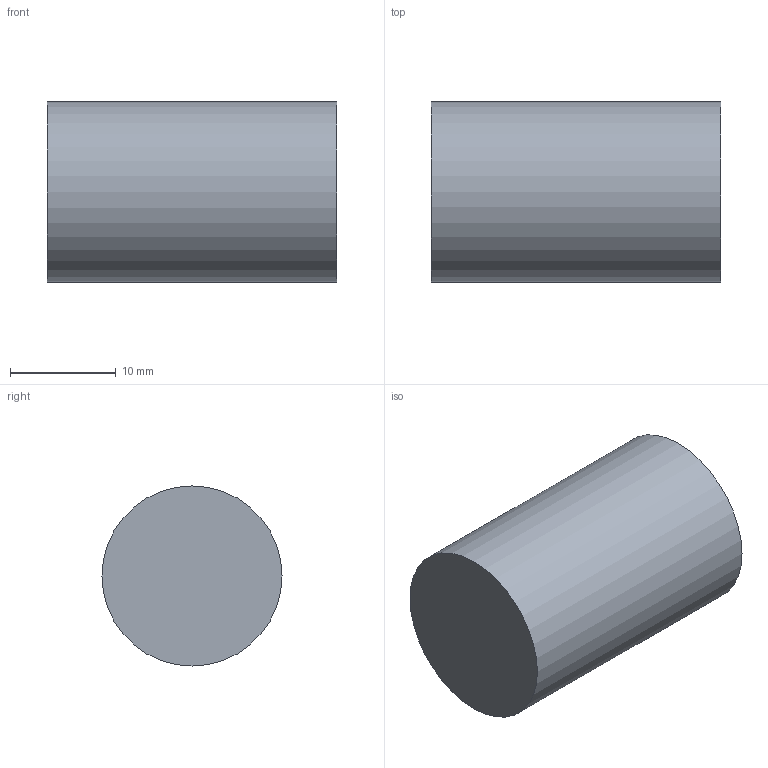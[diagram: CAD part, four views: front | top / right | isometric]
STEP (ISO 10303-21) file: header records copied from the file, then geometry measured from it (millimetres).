
FILE_DESCRIPTION(('Open CASCADE Model'),'2;1');
FILE_NAME('Open CASCADE Shape Model','2026-10-24T14:13:33',('Author'),( 'Open CASCADE'),'Open CASCADE STEP processor 7.9','Open CASCADE 7.9' ,'Unknown');
FILE_SCHEMA(('AUTOMOTIVE_DESIGN { 1 0 10303 214 1 1 1 1 }'));
Length unit declared in the file: millimetre
Products named in the file (1): Open CASCADE STEP translator 7.9 2
Bounding box: 27.3 x 17 x 17 mm (x, y, z)
Volume: 1112.4 mm3; surface area: 3215.6 mm2
Topology: 1 solids, 1 shells, 5 faces, 6 edges, 4 vertices
Faces by surface type: plane 3, cylinder 2
Full cylindrical faces by diameter (mm): 15.6 x1, 17 x1
Entity records: 192 total; most frequent: DIRECTION 34, CARTESIAN_POINT 28, ORIENTED_EDGE 12, PCURVE 12, DEFINITIONAL_REPRESENTATION 12, AXIS2_PLACEMENT_3D 10, LINE 10, VECTOR 10
